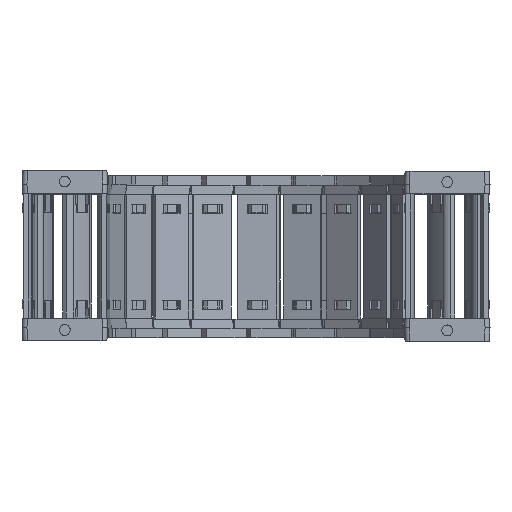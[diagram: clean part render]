
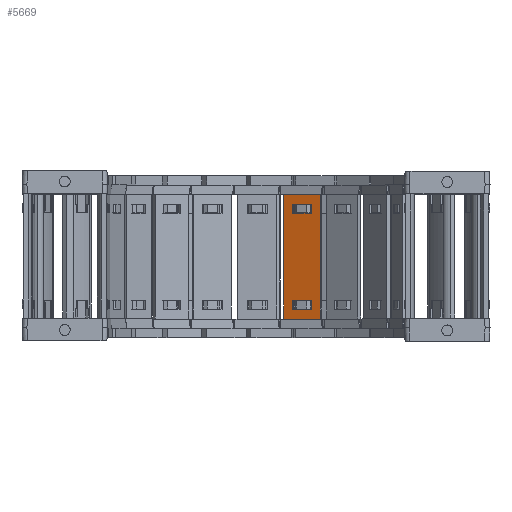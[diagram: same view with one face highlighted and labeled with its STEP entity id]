
A CAD part, top view. The second image highlights one B-rep face of the part: STEP entity #5669.
In plain terms, the highlighted planar face has unit normal (-0.342, 0, 0.94) as drawn and (0, 1, 0) by its records, which use the part's own axes.
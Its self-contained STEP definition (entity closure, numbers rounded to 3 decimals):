
#5089=DIRECTION('',(0.,0.,1.));
#5090=VECTOR('',#5089,15.8);
#5091=CARTESIAN_POINT('',(35.74,1.5,-7.9));
#5092=LINE('',#5091,#5090);
#5093=DIRECTION('',(-1.,0.,0.));
#5094=VECTOR('',#5093,50.5);
#5095=CARTESIAN_POINT('',(35.74,1.5,7.9));
#5096=LINE('',#5095,#5094);
#5097=DIRECTION('',(0.,0.,-1.));
#5098=VECTOR('',#5097,15.8);
#5099=CARTESIAN_POINT('',(-14.76,1.5,7.9));
#5100=LINE('',#5099,#5098);
#5101=DIRECTION('',(1.,0.,0.));
#5102=VECTOR('',#5101,3.648);
#5103=CARTESIAN_POINT('',(28.122,1.5,4.075));
#5104=LINE('',#5103,#5102);
#5105=DIRECTION('',(0.,0.,-1.));
#5106=VECTOR('',#5105,8.15);
#5107=CARTESIAN_POINT('',(31.77,1.5,4.075));
#5108=LINE('',#5107,#5106);
#5109=DIRECTION('',(-1.,0.,0.));
#5110=VECTOR('',#5109,3.648);
#5111=CARTESIAN_POINT('',(31.77,1.5,-4.075));
#5112=LINE('',#5111,#5110);
#5113=DIRECTION('',(0.,0.,-1.));
#5114=VECTOR('',#5113,8.15);
#5115=CARTESIAN_POINT('',(-7.142,1.5,4.075));
#5116=LINE('',#5115,#5114);
#5117=DIRECTION('',(-1.,0.,0.));
#5118=VECTOR('',#5117,3.648);
#5119=CARTESIAN_POINT('',(-7.142,1.5,-4.075));
#5120=LINE('',#5119,#5118);
#5121=DIRECTION('',(0.,0.,1.));
#5122=VECTOR('',#5121,8.15);
#5123=CARTESIAN_POINT('',(-10.79,1.5,-4.075));
#5124=LINE('',#5123,#5122);
#5125=DIRECTION('',(1.,0.,0.));
#5126=VECTOR('',#5125,3.648);
#5127=CARTESIAN_POINT('',(-10.79,1.5,4.075));
#5128=LINE('',#5127,#5126);
#5133=DIRECTION('',(-1.,0.,0.));
#5134=VECTOR('',#5133,50.5);
#5135=CARTESIAN_POINT('',(35.74,1.5,-7.9));
#5136=LINE('',#5135,#5134);
#5254=DIRECTION('',(0.,0.,-1.));
#5255=VECTOR('',#5254,8.15);
#5256=CARTESIAN_POINT('',(28.122,1.5,4.075));
#5257=LINE('',#5256,#5255);
#5439=CARTESIAN_POINT('',(31.77,1.5,4.075));
#5440=VERTEX_POINT('',#5439);
#5441=CARTESIAN_POINT('',(28.122,1.5,4.075));
#5442=VERTEX_POINT('',#5441);
#5483=CARTESIAN_POINT('',(28.122,1.5,-4.075));
#5484=VERTEX_POINT('',#5483);
#5485=CARTESIAN_POINT('',(31.77,1.5,-4.075));
#5486=VERTEX_POINT('',#5485);
#5487=CARTESIAN_POINT('',(35.74,1.5,7.9));
#5489=VERTEX_POINT('',#5487);
#5491=CARTESIAN_POINT('',(35.74,1.5,-7.9));
#5492=VERTEX_POINT('',#5491);
#5515=CARTESIAN_POINT('',(-7.142,1.5,4.075));
#5516=CARTESIAN_POINT('',(-7.142,1.5,-4.075));
#5517=VERTEX_POINT('',#5515);
#5518=VERTEX_POINT('',#5516);
#5519=CARTESIAN_POINT('',(-10.79,1.5,-4.075));
#5520=VERTEX_POINT('',#5519);
#5521=CARTESIAN_POINT('',(-10.79,1.5,4.075));
#5522=VERTEX_POINT('',#5521);
#5523=CARTESIAN_POINT('',(-14.76,1.5,7.9));
#5524=VERTEX_POINT('',#5523);
#5527=CARTESIAN_POINT('',(-14.76,1.5,-7.9));
#5528=VERTEX_POINT('',#5527);
#5638=CARTESIAN_POINT('',(67.48,1.5,10.061));
#5639=DIRECTION('',(0.,-1.,0.));
#5640=DIRECTION('',(0.,0.,-1.));
#5641=AXIS2_PLACEMENT_3D('',#5638,#5639,#5640);
#5642=PLANE('',#5641);
#5643=ORIENTED_EDGE('',*,*,#5577,.T.);
#5644=ORIENTED_EDGE('',*,*,#5603,.T.);
#5645=ORIENTED_EDGE('',*,*,#5616,.T.);
#5647=ORIENTED_EDGE('',*,*,#5646,.F.);
#5648=EDGE_LOOP('',(#5643,#5644,#5645,#5647));
#5649=FACE_OUTER_BOUND('',#5648,.F.);
#5651=ORIENTED_EDGE('',*,*,#5650,.F.);
#5652=ORIENTED_EDGE('',*,*,#5540,.T.);
#5654=ORIENTED_EDGE('',*,*,#5653,.T.);
#5656=ORIENTED_EDGE('',*,*,#5655,.T.);
#5657=EDGE_LOOP('',(#5651,#5652,#5654,#5656));
#5658=FACE_BOUND('',#5657,.F.);
#5660=ORIENTED_EDGE('',*,*,#5659,.T.);
#5662=ORIENTED_EDGE('',*,*,#5661,.T.);
#5664=ORIENTED_EDGE('',*,*,#5663,.T.);
#5666=ORIENTED_EDGE('',*,*,#5665,.T.);
#5667=EDGE_LOOP('',(#5660,#5662,#5664,#5666));
#5668=FACE_BOUND('',#5667,.F.);
#5669=ADVANCED_FACE('',(#5649,#5658,#5668),#5642,.F.);
#5540=EDGE_CURVE('',#5442,#5440,#5104,.T.);
#5577=EDGE_CURVE('',#5492,#5489,#5092,.T.);
#5603=EDGE_CURVE('',#5489,#5524,#5096,.T.);
#5616=EDGE_CURVE('',#5524,#5528,#5100,.T.);
#5646=EDGE_CURVE('',#5492,#5528,#5136,.T.);
#5650=EDGE_CURVE('',#5442,#5484,#5257,.T.);
#5653=EDGE_CURVE('',#5440,#5486,#5108,.T.);
#5655=EDGE_CURVE('',#5486,#5484,#5112,.T.);
#5659=EDGE_CURVE('',#5517,#5518,#5116,.T.);
#5661=EDGE_CURVE('',#5518,#5520,#5120,.T.);
#5663=EDGE_CURVE('',#5520,#5522,#5124,.T.);
#5665=EDGE_CURVE('',#5522,#5517,#5128,.T.);
